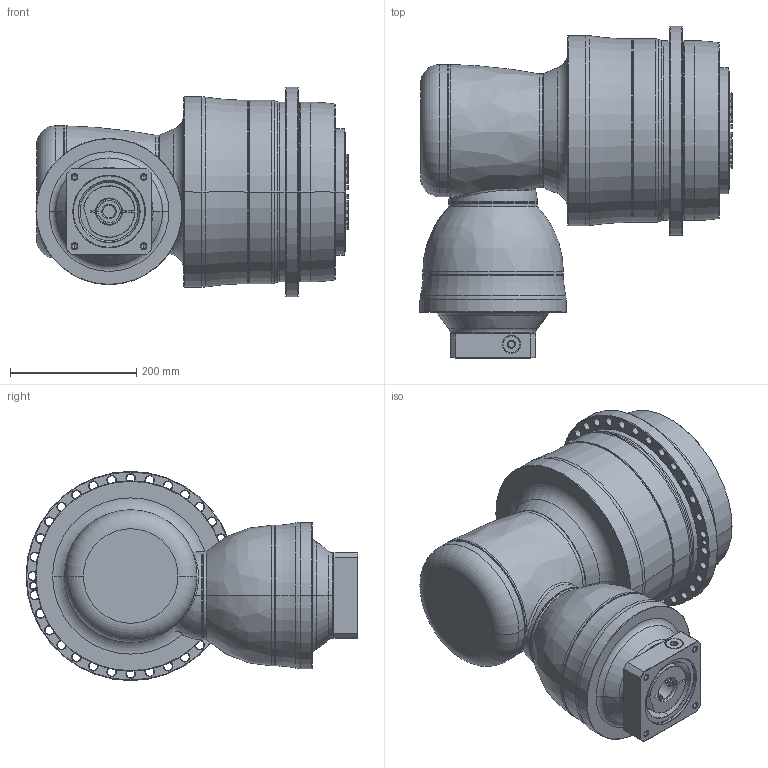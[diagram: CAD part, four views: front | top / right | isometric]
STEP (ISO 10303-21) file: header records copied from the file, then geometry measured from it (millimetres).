
FILE_DESCRIPTION((''),'2;1');
FILE_NAME('APCK285_4ST_35-P0409800201_ASM','2018-05-17T',('d01226'),(''),'PRO/ENGINEER BY PARAMETRIC TECHNOLOGY CORPORATION, 2008410','PRO/ENGINEER BY PARAMETRIC TECHNOLOGY CORPORATION, 2008410','');
FILE_SCHEMA(('CONFIG_CONTROL_DESIGN'));
Length unit declared in the file: millimetre
Products named in the file (13): P1008600002; P1832810001; P0278801003; P03598G0103; P1211800001; P1315600001; P1007601001; P1317610301; P0409800201; P0503800012; P0912503001; 21711422019; APCK285_4ST_35-P0409800201_ASM
Assembly tree (12 placements, depth 2):
  APCK285_4ST_35-P0409800201_ASM
    P1008600002
    P1832810001
    P0278801003
    P03598G0103
    P1211800001
    P1315600001
    P1007601001
    P1317610301
    P0409800201
    P0503800012
    P0912503001
    21711422019
Bounding box: 495.1 x 526.5 x 332 mm (x, y, z)
Volume: 31044147.9 mm3; surface area: 1665395.4 mm2
Topology: 13 solids, 25 shells, 861 faces, 2063 edges, 1260 vertices
Faces by surface type: cone 286, cylinder 241, plane 155, torus 142, bspline 35, sphere 2
Entity records: 32420 total; most frequent: CARTESIAN_POINT 11896, DIRECTION 4585, ORIENTED_EDGE 4048, EDGE_CURVE 2049, AXIS2_PLACEMENT_3D 2024, VERTEX_POINT 1260, CIRCLE 1161, EDGE_LOOP 991
